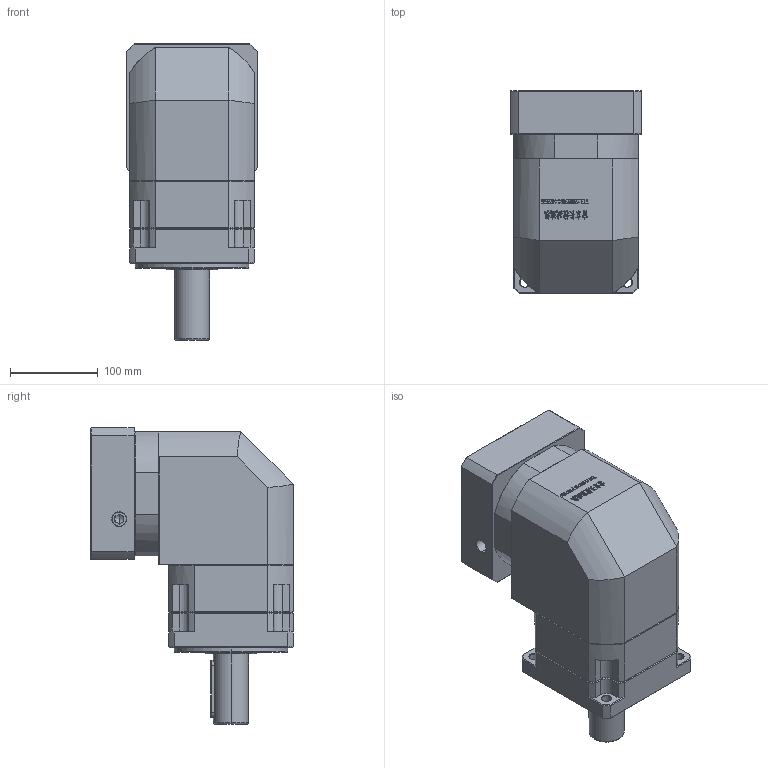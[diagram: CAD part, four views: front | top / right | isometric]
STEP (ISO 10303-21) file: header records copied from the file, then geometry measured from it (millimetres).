
FILE_DESCRIPTION (( 'STEP AP214' ), '1' );
FILE_NAME ('ZBR142A-D40-L1-28-130-165-M10.step', '2023-03-18T09:21:05', ( '' ), ( '' ), 'SwSTEP 2.0', 'SolidWorks 2016', '' );
FILE_SCHEMA (( 'AUTOMOTIVE_DESIGN' ));
Length unit declared in the file: millimetre
Products named in the file (1): ZBR142A-D40-L1-28-130-165-M10
Bounding box: 150 x 231 x 337.7 mm (x, y, z)
Volume: 5512569.6 mm3; surface area: 400809 mm2
Topology: 6 solids, 6 shells, 2915 faces, 7786 edges, 5020 vertices
Faces by surface type: plane 1540, bspline 597, cylinder 424, cone 332, torus 22
Entity records: 164513 total; most frequent: CARTESIAN_POINT 64437, ORIENTED_EDGE 15512, DIRECTION 11733, EDGE_CURVE 7756, VECTOR 5219, LINE 5219, VERTEX_POINT 5020, AXIS2_PLACEMENT_3D 3257
